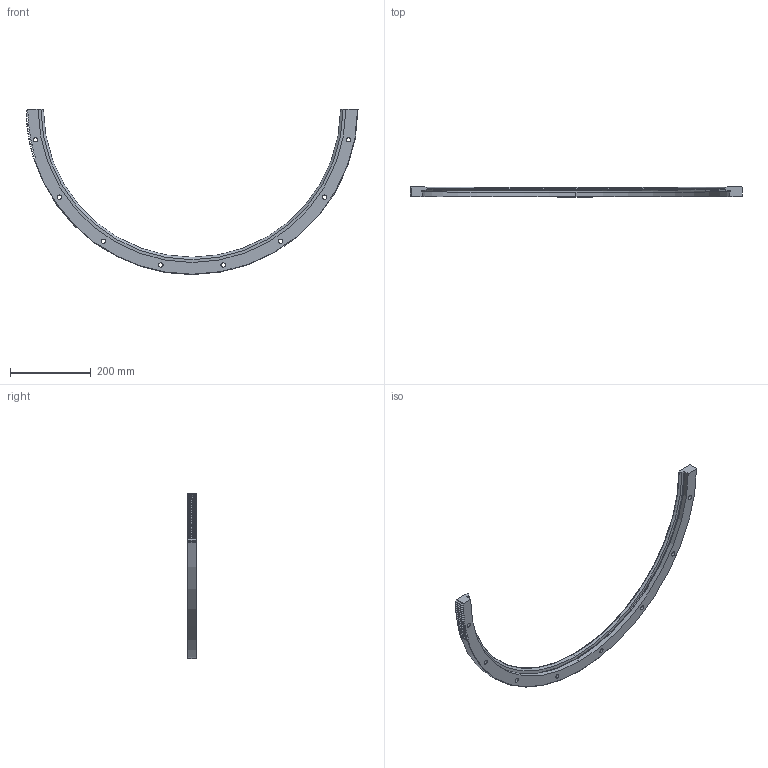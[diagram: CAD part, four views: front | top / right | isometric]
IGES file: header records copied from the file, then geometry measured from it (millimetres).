
Start section: 3D InterOp IGES (v. 2020 1.0.1), Spatial Corp. Copyright (c) 1999-2017.
Global section: file name: ril_820_r180_p.igs; native system: Spatial Corp.; preprocessor: 3D InterOp ACIS/IGES; author: TraceParts; organization: TraceParts S.A.; date: 20220624.063343; units: millimetre
Bounding box: 819.96 x 24 x 408 mm (x, y, z)
Surface area: 167873.7 mm2 (no closed solid volume)
Topology: 0 solids, 0 shells, 200 faces, 1130 edges, 1130 vertices
Faces by surface type: extrusion 112, revolution 88
